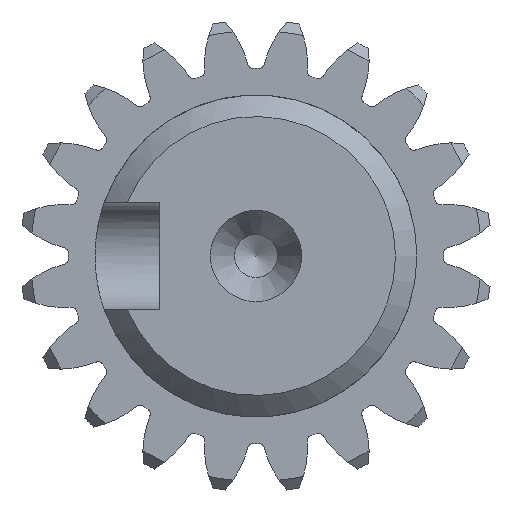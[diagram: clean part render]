
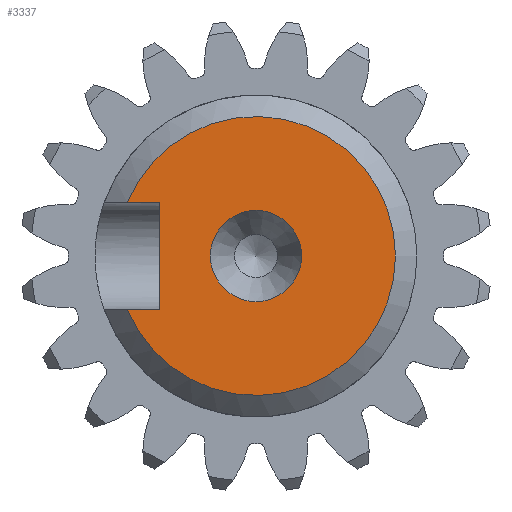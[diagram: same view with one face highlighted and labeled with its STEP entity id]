
A CAD part, left-side view. The second image highlights one B-rep face of the part: STEP entity #3337.
In plain terms, the highlighted planar face has unit normal (-1, 0, 0).
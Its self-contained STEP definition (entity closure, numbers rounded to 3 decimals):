
#16=FACE_BOUND('',#508,.T.);
#23=PLANE('',#3827);
#323=FACE_OUTER_BOUND('',#507,.T.);
#507=EDGE_LOOP('',(#2721,#2722,#2723,#2724));
#508=EDGE_LOOP('',(#2725));
#657=LINE('',#6201,#797);
#658=LINE('',#6203,#798);
#659=LINE('',#6204,#799);
#797=VECTOR('',#4881,10.);
#798=VECTOR('',#4882,10.);
#799=VECTOR('',#4883,10.);
#1099=CIRCLE('',#3826,6.5);
#1100=CIRCLE('',#3828,2.125);
#1439=VERTEX_POINT('',#6185);
#1443=VERTEX_POINT('',#6194);
#1444=VERTEX_POINT('',#6200);
#1445=VERTEX_POINT('',#6202);
#1446=VERTEX_POINT('',#6205);
#1954=EDGE_CURVE('',#1443,#1439,#1099,.T.);
#1955=EDGE_CURVE('',#1443,#1444,#657,.T.);
#1956=EDGE_CURVE('',#1444,#1445,#658,.T.);
#1957=EDGE_CURVE('',#1445,#1439,#659,.T.);
#1958=EDGE_CURVE('',#1446,#1446,#1100,.T.);
#2721=ORIENTED_EDGE('',*,*,#1954,.F.);
#2722=ORIENTED_EDGE('',*,*,#1955,.T.);
#2723=ORIENTED_EDGE('',*,*,#1956,.T.);
#2724=ORIENTED_EDGE('',*,*,#1957,.T.);
#2725=ORIENTED_EDGE('',*,*,#1958,.T.);
#3337=ADVANCED_FACE('',(#323,#16),#23,.T.);
#3826=AXIS2_PLACEMENT_3D('',#6198,#4877,#4878);
#3827=AXIS2_PLACEMENT_3D('',#6199,#4879,#4880);
#3828=AXIS2_PLACEMENT_3D('',#6206,#4884,#4885);
#4877=DIRECTION('center_axis',(1.,0.,0.));
#4878=DIRECTION('ref_axis',(0.,-1.,0.));
#4879=DIRECTION('center_axis',(-1.,0.,0.));
#4880=DIRECTION('ref_axis',(0.,0.,1.));
#4881=DIRECTION('',(0.,-1.,0.));
#4882=DIRECTION('',(0.,0.,-1.));
#4883=DIRECTION('',(0.,1.,0.));
#4884=DIRECTION('center_axis',(1.,0.,0.));
#4885=DIRECTION('ref_axis',(0.,0.,-1.));
#6185=CARTESIAN_POINT('',(0.,6.,-2.5));
#6194=CARTESIAN_POINT('',(0.,6.,2.5));
#6198=CARTESIAN_POINT('Origin',(0.,0.,0.));
#6199=CARTESIAN_POINT('Origin',(0.,7.5,0.));
#6200=CARTESIAN_POINT('',(0.,4.5,2.5));
#6201=CARTESIAN_POINT('',(0.,6.75,2.5));
#6202=CARTESIAN_POINT('',(0.,4.5,-2.5));
#6203=CARTESIAN_POINT('',(0.,4.5,0.));
#6204=CARTESIAN_POINT('',(0.,6.75,-2.5));
#6205=CARTESIAN_POINT('',(0.,-2.125,0.));
#6206=CARTESIAN_POINT('Origin',(0.,0.,0.));
